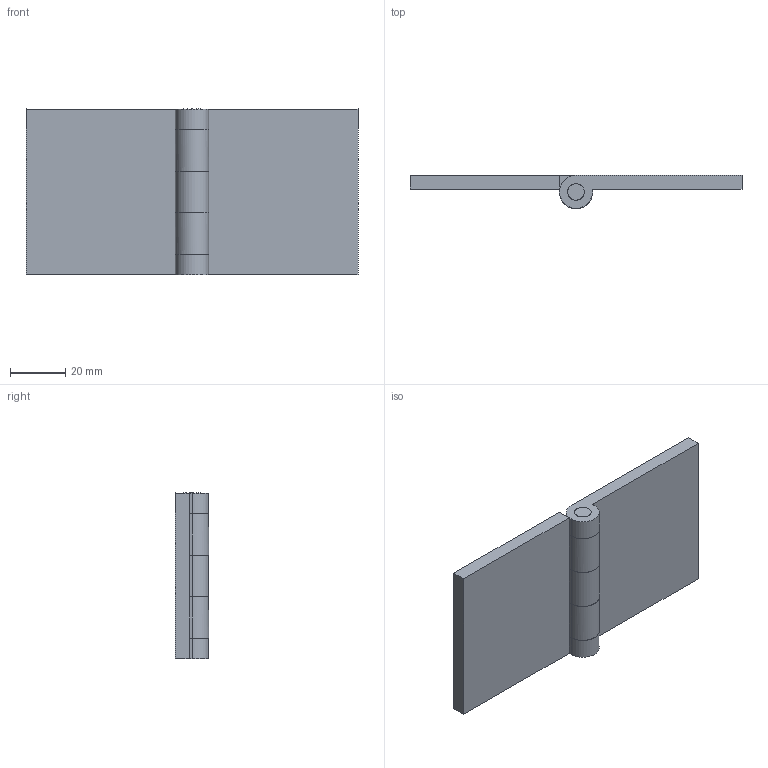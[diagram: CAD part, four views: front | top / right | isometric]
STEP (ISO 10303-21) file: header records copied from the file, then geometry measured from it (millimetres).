
FILE_DESCRIPTION((''),'2;1');
FILE_NAME('6024.01.stp','2015-07-17T15:59:22',(''),(''),'Mechanical Desktop 2006','Mechanical Desktop 2006',', , ');
FILE_SCHEMA(('CONFIG_CONTROL_DESIGN'));
Length unit declared in the file: millimetre
Products named in the file (1): 6024.01
Bounding box: 120 x 12 x 60 mm (x, y, z)
Volume: 18975.6 mm3; surface area: 19174.9 mm2
Topology: 1 solids, 1 shells, 52 faces, 190 edges, 166 vertices
Faces by surface type: bspline 26, cylinder 15, plane 11
Entity records: 2426 total; most frequent: CARTESIAN_POINT 1113, QUASI_UNIFORM_CURVE 192, DIRECTION 156, ORIENTED_EDGE 144, PCURVE 118, COMPOSITE_CURVE_SEGMENT 118, EDGE_CURVE 72, AXIS2_PLACEMENT_3D 57
